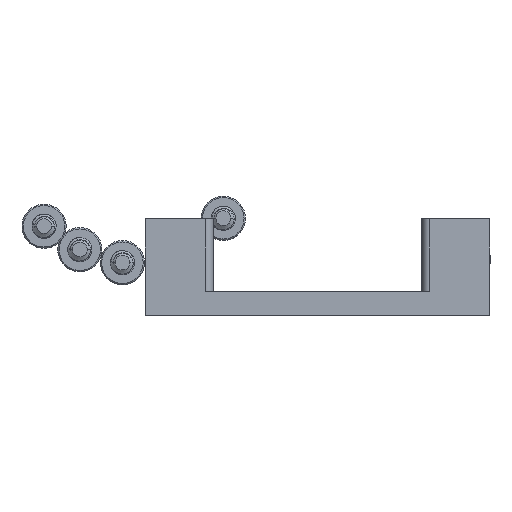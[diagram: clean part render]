
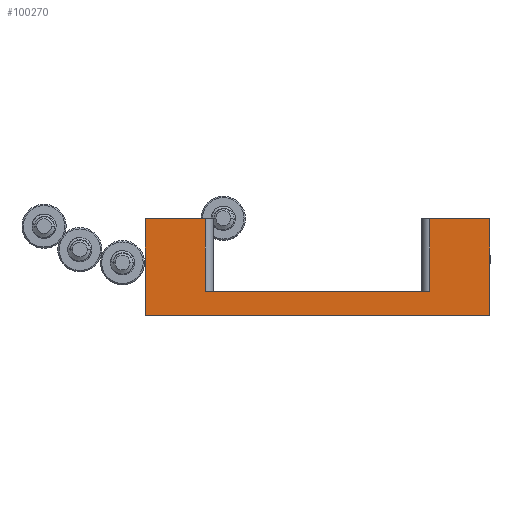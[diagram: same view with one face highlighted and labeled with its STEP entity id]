
A CAD part, top view. The second image highlights one B-rep face of the part: STEP entity #100270.
In plain terms, the highlighted planar face has unit normal (0, 0, 1).
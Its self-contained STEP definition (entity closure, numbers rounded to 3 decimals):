
#2617 = EDGE_CURVE ( 'NONE', #92966, #33124, #127336, .T. ) ;
#5833 = VECTOR ( 'NONE', #175239, 1000. ) ;
#6612 = CARTESIAN_POINT ( 'NONE',  ( 14., 12., 19. ) ) ;
#13075 = VECTOR ( 'NONE', #224880, 1000. ) ;
#25501 = LINE ( 'NONE', #187382, #189253 ) ;
#25605 = CARTESIAN_POINT ( 'NONE',  ( 0., 0., 19. ) ) ;
#29317 = VERTEX_POINT ( 'NONE', #111152 ) ;
#33124 = VERTEX_POINT ( 'NONE', #168616 ) ;
#33737 = VECTOR ( 'NONE', #68820, 1000. ) ;
#34071 = EDGE_LOOP ( 'NONE', ( #145697, #229991, #62943, #44975, #115511, #200233, #193318, #193938 ) ) ;
#44975 = ORIENTED_EDGE ( 'NONE', *, *, #2617, .T. ) ;
#49734 = EDGE_CURVE ( 'NONE', #59353, #94255, #25501, .T. ) ;
#59353 = VERTEX_POINT ( 'NONE', #198655 ) ;
#62943 = ORIENTED_EDGE ( 'NONE', *, *, #231993, .F. ) ;
#68820 = DIRECTION ( 'NONE',  ( 0., -1., 0. ) ) ;
#76137 = DIRECTION ( 'NONE',  ( 0., -1., 0. ) ) ;
#79399 = EDGE_CURVE ( 'NONE', #29317, #227566, #231013, .T. ) ;
#80671 = PLANE ( 'NONE',  #206455 ) ;
#88129 = CARTESIAN_POINT ( 'NONE',  ( 14., 3., 19. ) ) ;
#90927 = EDGE_CURVE ( 'NONE', #169378, #143508, #151520, .T. ) ;
#92966 = VERTEX_POINT ( 'NONE', #220596 ) ;
#94255 = VERTEX_POINT ( 'NONE', #198086 ) ;
#100270 = ADVANCED_FACE ( 'NONE', ( #162702 ), #80671, .T. ) ;
#101529 = CARTESIAN_POINT ( 'NONE',  ( -21.5, 3., 19. ) ) ;
#101762 = VECTOR ( 'NONE', #111140, 1000. ) ;
#111140 = DIRECTION ( 'NONE',  ( 0., -1., 0. ) ) ;
#111152 = CARTESIAN_POINT ( 'NONE',  ( -14., 3., 19. ) ) ;
#115511 = ORIENTED_EDGE ( 'NONE', *, *, #232654, .F. ) ;
#127336 = LINE ( 'NONE', #101529, #33737 ) ;
#143508 = VERTEX_POINT ( 'NONE', #88129 ) ;
#144965 = DIRECTION ( 'NONE',  ( 1., 0., 0. ) ) ;
#145655 = CARTESIAN_POINT ( 'NONE',  ( 0., 12., 19. ) ) ;
#145697 = ORIENTED_EDGE ( 'NONE', *, *, #167141, .T. ) ;
#151520 = LINE ( 'NONE', #204369, #101762 ) ;
#156750 = DIRECTION ( 'NONE',  ( 1., 0., 0. ) ) ;
#157563 = CARTESIAN_POINT ( 'NONE',  ( 0., 3., 19. ) ) ;
#162702 = FACE_OUTER_BOUND ( 'NONE', #34071, .T. ) ;
#167141 = EDGE_CURVE ( 'NONE', #143508, #29317, #182732, .T. ) ;
#168616 = CARTESIAN_POINT ( 'NONE',  ( -21.5, 0., 19. ) ) ;
#169378 = VERTEX_POINT ( 'NONE', #6612 ) ;
#172665 = LINE ( 'NONE', #238166, #181337 ) ;
#175239 = DIRECTION ( 'NONE',  ( -1., 0., 0. ) ) ;
#175514 = VECTOR ( 'NONE', #220038, 1000. ) ;
#181337 = VECTOR ( 'NONE', #144965, 1000. ) ;
#182732 = LINE ( 'NONE', #242092, #13075 ) ;
#186075 = DIRECTION ( 'NONE',  ( 0., 1., 0. ) ) ;
#187382 = CARTESIAN_POINT ( 'NONE',  ( 21.5, 3., 19. ) ) ;
#189253 = VECTOR ( 'NONE', #76137, 1000. ) ;
#193318 = ORIENTED_EDGE ( 'NONE', *, *, #226817, .F. ) ;
#193938 = ORIENTED_EDGE ( 'NONE', *, *, #90927, .T. ) ;
#198086 = CARTESIAN_POINT ( 'NONE',  ( 21.5, 0., 19. ) ) ;
#198655 = CARTESIAN_POINT ( 'NONE',  ( 21.5, 12., 19. ) ) ;
#200233 = ORIENTED_EDGE ( 'NONE', *, *, #49734, .F. ) ;
#201634 = VECTOR ( 'NONE', #186075, 1000. ) ;
#204369 = CARTESIAN_POINT ( 'NONE',  ( 14., 3., 19. ) ) ;
#204801 = LINE ( 'NONE', #25605, #5833 ) ;
#206455 = AXIS2_PLACEMENT_3D ( 'NONE', #157563, #213145, #156750 ) ;
#213145 = DIRECTION ( 'NONE',  ( 0., 0., 1. ) ) ;
#219411 = LINE ( 'NONE', #145655, #175514 ) ;
#220038 = DIRECTION ( 'NONE',  ( 1., 0., 0. ) ) ;
#220596 = CARTESIAN_POINT ( 'NONE',  ( -21.5, 12., 19. ) ) ;
#224880 = DIRECTION ( 'NONE',  ( -1., 0., 0. ) ) ;
#226817 = EDGE_CURVE ( 'NONE', #169378, #59353, #172665, .T. ) ;
#227566 = VERTEX_POINT ( 'NONE', #228628 ) ;
#228628 = CARTESIAN_POINT ( 'NONE',  ( -14., 12., 19. ) ) ;
#229991 = ORIENTED_EDGE ( 'NONE', *, *, #79399, .T. ) ;
#231013 = LINE ( 'NONE', #239285, #201634 ) ;
#231993 = EDGE_CURVE ( 'NONE', #92966, #227566, #219411, .T. ) ;
#232654 = EDGE_CURVE ( 'NONE', #94255, #33124, #204801, .T. ) ;
#238166 = CARTESIAN_POINT ( 'NONE',  ( 0., 12., 19. ) ) ;
#239285 = CARTESIAN_POINT ( 'NONE',  ( -14., 12., 19. ) ) ;
#242092 = CARTESIAN_POINT ( 'NONE',  ( 0., 3., 19. ) ) ;
